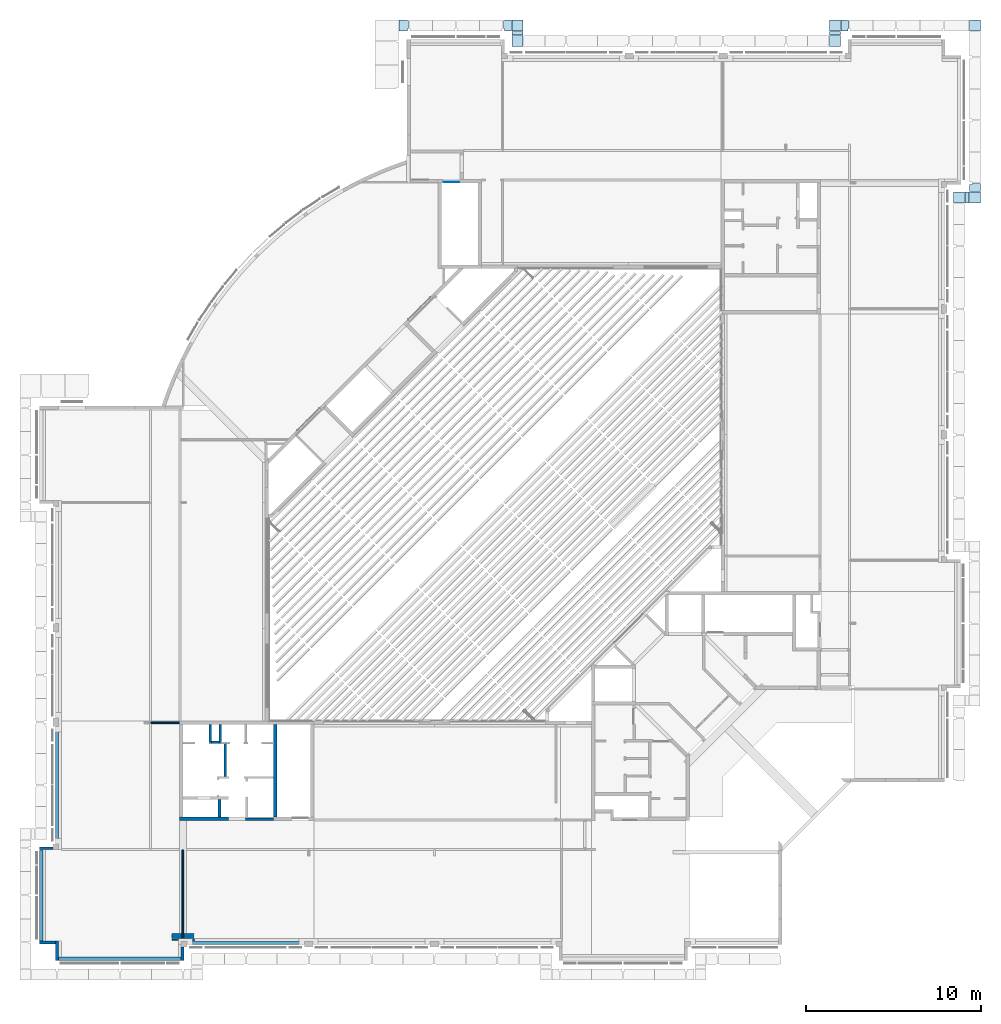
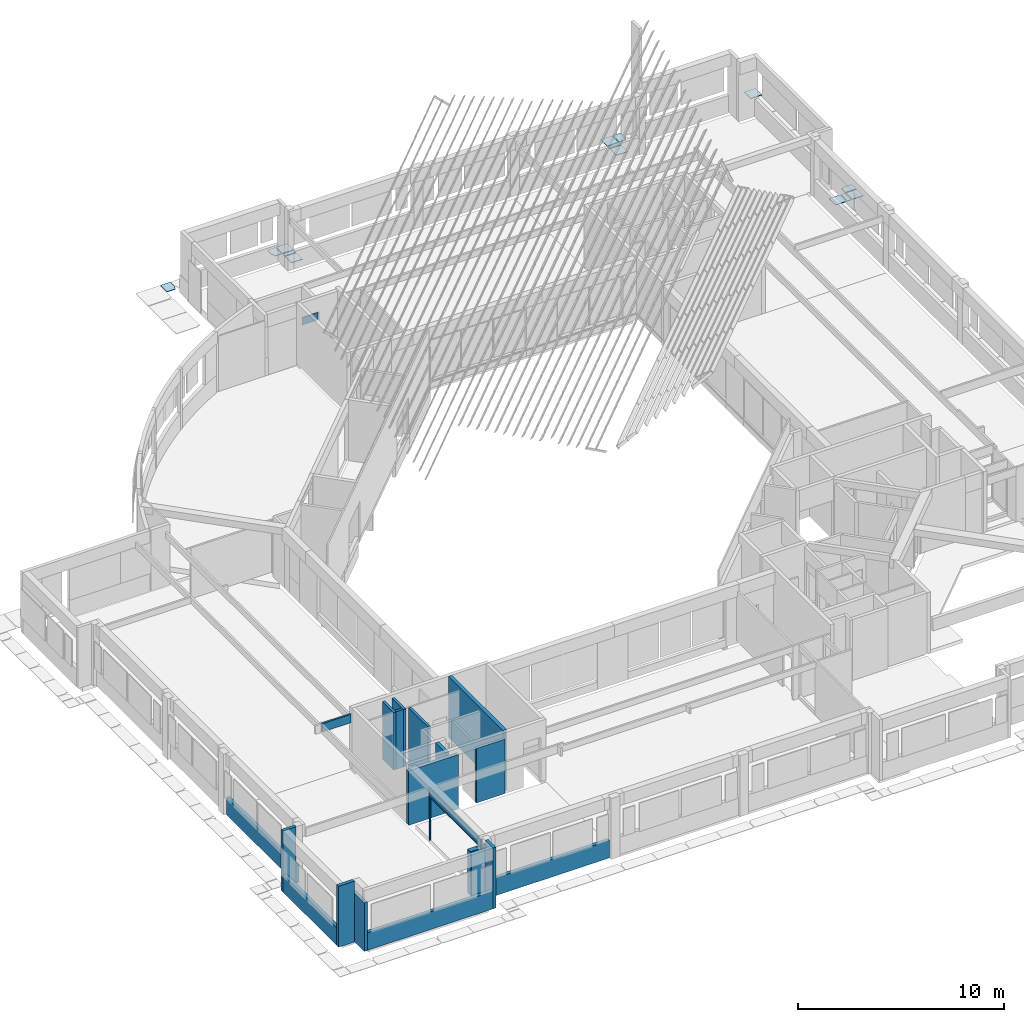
# One storey, part 24 of 37: 19 walls, 14 slabs, 1 plate.
"""IFC4X3_ADD2 building model written with IfcOpenShell, lengths in millimetres."""

from ifc_helpers import new_model, si_unit, point, direction, frame, frame_2d, origin_with_axes, origin_2d_with_axis, place, context, subcontext, project, spatial, polyline, circle_curve, trimmed, segment, composite_curve, rectangle, outline, extrude, source, transform, mapped, material, type_object, type_shapes, element, save


model = new_model("IFC4X3_ADD2")

# Units and contexts
model_context = context("Model", 3, precision=1e-05, world=origin_with_axes(), true_north=direction((0.0, 1.0)))
body_context = subcontext(model_context, "Body", "Model", "MODEL_VIEW")
ifc_project = project(units=[si_unit("LENGTHUNIT", "METRE", prefix="MILLI"), si_unit("AREAUNIT", "SQUARE_METRE"), si_unit("VOLUMEUNIT", "CUBIC_METRE"), si_unit("PLANEANGLEUNIT", "RADIAN"), si_unit("TIMEUNIT", "SECOND"), si_unit("MASSUNIT", "GRAM")], contexts=[model_context])

# Site, building, storey
site_placement = place(None, origin_with_axes())
site = spatial("IfcSite", under=ifc_project, at=site_placement, Name="Site", CompositionType="ELEMENT")
building_placement = place(site_placement, origin_with_axes())
building = spatial("IfcBuilding", under=site, at=building_placement, Name="IFC Building Story")
storey_placement = place(building_placement, frame((0.0, 0.0, 3600.0), z_axis=(0.0, 0.0, 1.0), x_axis=(1.0, 0.0, 0.0)))
storey = spatial("IfcBuildingStorey", under=building, at=storey_placement, Name="010", Elevation=3600.0)

# Plate
ifc_material_1 = material(Name="BB_Glas")
shared_shape_1 = source(origin_with_axes(), body_context, "Body", "SweptSolid", [
    extrude(rectangle(XDim=878.000000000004, YDim=454.000000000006, at=origin_2d_with_axis()), frame((0.0, 0.0, -17.0), z_axis=(0.0, 0.0, 1.0), x_axis=(1.0, 0.0, 0.0)), (0.0, 0.0, 1.0), 17.0),
])
plate_placement = place(storey_placement, frame((-28120.0, 43532.0, 2284.0), z_axis=(0.0, -1.0, 0.0), x_axis=(1.0, 0.0, 0.0)))
element("IfcPlate", 1, at=plate_placement, inside=storey, material=ifc_material_1, Name="BB_10.10_Binnenbeglazing, rechthoekig_GMO:XX_Geen", ObjectType="BB_10.10_Binnenbeglazing, rechthoekig_GMO:XX_Geen", PredefinedType="USERDEFINED", context=body_context, shape_type="MappedRepresentation", body=[
    mapped(shared_shape_1, transform((0.0, 0.0, 0.0))),
])

# Slabs
ifc_material_2 = material(Name="Steel, Galvanized - looprooster")
slab_type = type_object("IfcSlabType", Name="Steel, Galvanized - looprooster 30", PredefinedType="FLOOR", material=ifc_material_2)
slab_1_placement = place(storey_placement, frame((-31116.50125884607, 52819.99839785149, -350.0), z_axis=(0.0, 0.0, 1.0), x_axis=(0.0, -1.0, 0.0)))
element("IfcSlab", 2, at=slab_1_placement, inside=storey, type_object=slab_type, Name="Floor:GVH - Looprooster 30 mm", ObjectType="Floor:GVH - Looprooster 30 mm", PredefinedType="FLOOR", context=body_context, shape_type="SweptSolid", body=[
    extrude(outline(polyline([(202.5005722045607, 116.8752737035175), (347.5005722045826, 116.8752737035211), (347.5005722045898, -367.6260213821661), (-282.4994277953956, -367.6260213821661), (-282.4994277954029, 81.87547397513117), (-267.5017166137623, 81.87547397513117), (-267.5017166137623, 168.8752737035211), (202.5005722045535, 168.8752737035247), (202.5005722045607, 116.8752737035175)])), frame((282.4994277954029, 367.6260213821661, 0.0), z_axis=(0.0, 0.0, 1.0), x_axis=(1.0, 0.0, 0.0)), (0.0, 0.0, 1.0), 30.0),
])
for number, where, z_axis, x_axis, name in (
    (3, (-24665.00125884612, 52819.9983978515, -350.0), (0.0, 0.0, 1.0), (0.0, -1.0, 0.0), "Floor:GVH - Looprooster 30 mm"),
    (4, (-24665.00125884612, 51919.99839785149, -350.0), (0.0, 0.0, 1.0), (0.0, -1.0, 0.0), "Floor:GVH - Looprooster 30 mm"),
):
    element("IfcSlab", number, at=place(storey_placement, frame(where, z_axis=z_axis, x_axis=x_axis)), inside=storey, type_object=slab_type, Name=name, ObjectType="Floor:GVH - Looprooster 30 mm", PredefinedType="FLOOR", context=body_context, shape_type="SweptSolid", body=[
        extrude(rectangle(XDim=629.9999999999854, YDim=629.9996566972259, at=frame_2d((0.0, 0.0), x_axis=(-1.0, 0.0))), frame((314.9999999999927, 314.9998283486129, 0.0), z_axis=(0.0, 0.0, 1.0), x_axis=(1.0, 0.0, 0.0)), (0.0, 0.0, 1.0), 30.0),
    ])
slab_2_placement = place(storey_placement, frame((-6495.001258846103, 52819.99839785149, -350.0), z_axis=(0.0, 0.0, 1.0), x_axis=(0.0, -1.0, 0.0)))
element("IfcSlab", 5, at=slab_2_placement, inside=storey, type_object=slab_type, Name="Floor:GVH - Looprooster 30 mm", ObjectType="Floor:GVH - Looprooster 30 mm", PredefinedType="FLOOR", context=body_context, shape_type="SweptSolid", body=[
    extrude(rectangle(XDim=629.9999999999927, YDim=629.9996566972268, at=frame_2d((0.0, 0.0), x_axis=(-1.0, 0.0))), frame((314.9999999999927, 314.9998283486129, 0.0), z_axis=(0.0, 0.0, 1.0), x_axis=(1.0, 0.0, 0.0)), (0.0, 0.0, 1.0), 30.0),
])
slab_3_placement = place(storey_placement, frame((-6495.000106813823, 51919.9983978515, -350.0), z_axis=(0.0, 0.0, 1.0), x_axis=(0.0, -1.0, 0.0)))
element("IfcSlab", 6, at=slab_3_placement, inside=storey, type_object=slab_type, Name="Floor:GVH - Looprooster 30 mm", ObjectType="Floor:GVH - Looprooster 30 mm", PredefinedType="FLOOR", context=body_context, shape_type="SweptSolid", body=[
    extrude(rectangle(XDim=629.9999999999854, YDim=629.9996566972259, at=frame_2d((0.0, 0.0), x_axis=(-1.0, 0.0))), frame((314.9999999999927, 314.9998283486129, 0.0), z_axis=(0.0, 0.0, 1.0), x_axis=(1.0, 0.0, 0.0)), (0.0, 0.0, 1.0), 30.0),
])
slab_4_placement = place(storey_placement, frame((589.9987411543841, 42980.0001068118, -350.0), z_axis=(0.0, 0.0, 1.0), x_axis=(0.0, -1.0, 0.0)))
element("IfcSlab", 7, at=slab_4_placement, inside=storey, type_object=slab_type, Name="Floor:GVH - Looprooster 30 mm", ObjectType="Floor:GVH - Looprooster 30 mm", PredefinedType="FLOOR", context=body_context, shape_type="SweptSolid", body=[
    extrude(rectangle(XDim=629.9999999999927, YDim=629.9996566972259, at=frame_2d((0.0, 0.0), x_axis=(-1.0, 0.0))), frame((314.9999999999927, 314.9998283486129, 0.0), z_axis=(0.0, 0.0, 1.0), x_axis=(1.0, 0.0, 0.0)), (0.0, 0.0, 1.0), 30.0),
])
slab_5_placement = place(storey_placement, frame((1524.998741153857, 42979.4049242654, -350.0), z_axis=(0.0, 0.0, 1.0), x_axis=(0.0, -1.0, 0.0)))
element("IfcSlab", 8, at=slab_5_placement, inside=storey, type_object=slab_type, Name="Floor:GVH - Looprooster 30 mm", ObjectType="Floor:GVH - Looprooster 30 mm", PredefinedType="FLOOR", context=body_context, shape_type="SweptSolid", body=[
    extrude(rectangle(XDim=629.9999999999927, YDim=629.9996566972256, at=frame_2d((0.0, 0.0), x_axis=(-1.0, 0.0))), frame((314.9999999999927, 314.9998283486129, 0.0), z_axis=(0.0, 0.0, 1.0), x_axis=(1.0, 0.0, 0.0)), (0.0, 0.0, 1.0), 30.0),
])
slab_6_placement = place(storey_placement, frame((-24665.00125884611, 51954.9983978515, -350.0), z_axis=(0.0, 0.0, 1.0), x_axis=(1.0, 0.0, 0.0)))
element("IfcSlab", 9, at=slab_6_placement, inside=storey, type_object=slab_type, Name="Floor:GVH - Looprooster 30 mm", ObjectType="Floor:GVH - Looprooster 30 mm", PredefinedType="FLOOR", context=body_context, shape_type="SweptSolid", body=[
    extrude(rectangle(XDim=629.9996566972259, YDim=199.9999999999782, at=origin_2d_with_axis()), frame((314.9998283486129, 99.99999999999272, 0.0), z_axis=(0.0, 0.0, 1.0), x_axis=(1.0, 0.0, 0.0)), (0.0, 0.0, 1.0), 30.0),
])
slab_7_placement = place(storey_placement, frame((-25149.99996376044, 52819.99950666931, -350.0), z_axis=(0.0, 0.0, 1.0), x_axis=(0.0, -1.0, 0.0)))
element("IfcSlab", 10, at=slab_7_placement, inside=storey, type_object=slab_type, Name="Floor:GVH - Looprooster 30 mm", ObjectType="Floor:GVH - Looprooster 30 mm", PredefinedType="FLOOR", context=body_context, shape_type="SweptSolid", body=[
    extrude(outline(polyline([(347.500575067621, -94.37462711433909), (202.500575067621, -94.37462711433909), (202.500575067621, -146.3746271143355), (-267.5011650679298, -146.3746271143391), (-267.5011650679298, -59.37482357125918), (-282.4999850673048, -59.37482357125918), (-282.4999850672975, 300.124077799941), (347.500575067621, 300.124077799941), (347.500575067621, -94.37462711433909)])), frame((282.4999850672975, 146.3746271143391, 0.0), z_axis=(0.0, 0.0, 1.0), x_axis=(1.0, 0.0, 0.0)), (0.0, 0.0, 1.0), 30.0),
])
slab_8_placement = place(storey_placement, frame((-6495.001258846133, 51954.99839785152, -350.0), z_axis=(0.0, 0.0, 1.0), x_axis=(1.0, 0.0, 0.0)))
element("IfcSlab", 11, at=slab_8_placement, inside=storey, type_object=slab_type, Name="Floor:GVH - Looprooster 30 mm", ObjectType="Floor:GVH - Looprooster 30 mm", PredefinedType="FLOOR", context=body_context, shape_type="SweptSolid", body=[
    extrude(rectangle(XDim=629.999656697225, YDim=199.9999999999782, at=origin_2d_with_axis()), frame((314.9998283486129, 99.99999999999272, 0.0), z_axis=(0.0, 0.0, 1.0), x_axis=(1.0, 0.0, 0.0)), (0.0, 0.0, 1.0), 30.0),
])
slab_9_placement = place(storey_placement, frame((1254.998397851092, 42980.00010681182, -350.0), z_axis=(0.0, 0.0, 1.0), x_axis=(0.0, -1.0, 0.0)))
element("IfcSlab", 12, at=slab_9_placement, inside=storey, type_object=slab_type, Name="Floor:GVH - Looprooster 30 mm", ObjectType="Floor:GVH - Looprooster 30 mm", PredefinedType="FLOOR", context=body_context, shape_type="SweptSolid", body=[
    extrude(rectangle(XDim=629.9996566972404, YDim=235.0003433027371, at=frame_2d((0.0, 0.0), x_axis=(-1.0, 0.0))), frame((314.9998283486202, 117.5001716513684, 0.0), z_axis=(0.0, 0.0, 1.0), x_axis=(1.0, 0.0, 0.0)), (0.0, 0.0, 1.0), 30.0),
])
slab_10_placement = place(storey_placement, frame((1524.998741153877, 52819.9983978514, -350.0), z_axis=(0.0, 0.0, 1.0), x_axis=(0.0, -1.0, 0.0)))
element("IfcSlab", 13, at=slab_10_placement, inside=storey, type_object=slab_type, Name="Floor:GVH - Looprooster 30 mm", ObjectType="Floor:GVH - Looprooster 30 mm", PredefinedType="FLOOR", context=body_context, shape_type="SweptSolid", body=[
    extrude(rectangle(XDim=629.9999999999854, YDim=629.9996566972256, at=frame_2d((0.0, 0.0), x_axis=(-1.0, 0.0))), frame((314.9999999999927, 314.9998283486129, 0.0), z_axis=(0.0, 0.0, 1.0), x_axis=(1.0, 0.0, 0.0)), (0.0, 0.0, 1.0), 30.0),
])
slab_11_placement = place(storey_placement, frame((-5826.504006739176, 52819.99839785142, -350.0), z_axis=(0.0, 0.0, 1.0), x_axis=(0.0, -1.0, 0.0)))
element("IfcSlab", 14, at=slab_11_placement, inside=storey, type_object=slab_type, Name="Floor:GVH - Looprooster 30 mm", ObjectType="Floor:GVH - Looprooster 30 mm", PredefinedType="FLOOR", context=body_context, shape_type="SweptSolid", body=[
    extrude(outline(polyline([(202.4987412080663, 94.37596067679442), (347.5011825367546, 94.37596067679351), (347.5011825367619, -300.1280823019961), (-282.4988174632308, -300.1280823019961), (-282.4988174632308, 59.37616094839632), (-267.5011062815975, 59.37616094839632), (-267.5011062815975, 146.3759606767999), (202.4987412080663, 146.3759606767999), (202.4987412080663, 94.37596067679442)])), frame((282.4988174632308, 300.1280823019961, 0.0), z_axis=(0.0, 0.0, 1.0), x_axis=(1.0, 0.0, 0.0)), (0.0, 0.0, 1.0), 30.0),
])
slab_12_placement = place(storey_placement, frame((1524.998741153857, 43018.49954988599, -350.0), z_axis=(0.0, 0.0, 1.0), x_axis=(1.0, 0.0, 0.0)))
element("IfcSlab", 15, at=slab_12_placement, inside=storey, type_object=slab_type, Name="Floor:GVH - Looprooster 30 mm", ObjectType="Floor:GVH - Looprooster 30 mm", PredefinedType="FLOOR", context=body_context, shape_type="SweptSolid", body=[
    extrude(outline(polyline([(282.499218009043, 59.3742398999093), (282.499218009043, -300.1244649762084), (-347.5004386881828, -300.1244649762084), (-347.5004386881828, 94.37423993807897), (-202.4983406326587, 94.37423993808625), (-202.4983406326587, 146.3759851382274), (267.4995613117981, 146.3759851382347), (267.4995613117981, 59.3742398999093), (282.499218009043, 59.3742398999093)])), frame((347.5004386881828, 300.1244649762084, 0.0), z_axis=(0.0, 0.0, 1.0), x_axis=(1.0, 0.0, 0.0)), (0.0, 0.0, 1.0), 30.0),
])

# Walls
ifc_material_3 = material(Name="BB_Beton_Bestaand")
wall_type_1 = type_object("IfcWallType", Name="BB_Beton_Bestaand 200", PredefinedType="NOTDEFINED", material=ifc_material_3)
wall_1_placement = place(storey_placement, origin_with_axes())
element("IfcWall", 16, at=wall_1_placement, inside=storey, type_object=wall_type_1, Name="Basic Wall:BB_XX_Wand uit beton, 200 mm", ObjectType="Basic Wall:BB_XX_Wand uit beton, 200 mm", PredefinedType="SOLIDWALL", context=body_context, shape_type="SweptSolid", body=[
    extrude(rectangle(XDim=2800.000000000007, YDim=200.0, at=origin_2d_with_axis()), frame((-42300.0, 7100.0, -80.0), z_axis=(0.0, 0.0, 1.0), x_axis=(1.0, 0.0, 0.0)), (0.0, 0.0, 1.0), 3220.0),
])
wall_2_placement = place(storey_placement, origin_with_axes())
element("IfcWall", 17, at=wall_2_placement, inside=storey, type_object=wall_type_1, Name="Basic Wall:BB_XX_Wand uit beton, 200 mm", ObjectType="Basic Wall:BB_XX_Wand uit beton, 200 mm", PredefinedType="SOLIDWALL", context=body_context, shape_type="SweptSolid", body=[
    extrude(rectangle(XDim=5300.004065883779, YDim=200.0, at=frame_2d((0.0, 0.0), x_axis=(0.0, 1.0))), frame((-38200.0, 9850.00203294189, -80.0), z_axis=(0.0, 0.0, 1.0), x_axis=(1.0, 0.0, 0.0)), (0.0, 0.0, 1.0), 3600.0),
])
wall_type_2 = type_object("IfcWallType", Name="BB_Beton_Bestaand 190", PredefinedType="NOTDEFINED", material=ifc_material_3)
wall_3_placement = place(storey_placement, origin_with_axes())
element("IfcWall", 18, at=wall_3_placement, inside=storey, type_object=wall_type_2, Name="Basic Wall:BB_XX_Wand uit beton, 190 mm", ObjectType="Basic Wall:BB_XX_Wand uit beton, 190 mm", PredefinedType="SOLIDWALL", context=body_context, shape_type="SweptSolid", body=[
    extrude(rectangle(XDim=7010.000000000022, YDim=190.0, at=origin_2d_with_axis()), frame((-47100.0, -900.0, -200.0), z_axis=(0.0, 0.0, 1.0), x_axis=(1.0, 0.0, 0.0)), (0.0, 0.0, 1.0), 1040.0),
])
wall_4_placement = place(storey_placement, origin_with_axes())
element("IfcWall", 19, at=wall_4_placement, inside=storey, type_object=wall_type_2, Name="Basic Wall:BB_XX_Wand uit beton, 190 mm", ObjectType="Basic Wall:BB_XX_Wand uit beton, 190 mm", PredefinedType="SOLIDWALL", context=body_context, shape_type="SweptSolid", body=[
    extrude(rectangle(XDim=1124.99999999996, YDim=189.9999999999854, at=frame_2d((0.0, 0.0), x_axis=(0.0, 1.0))), frame((-50700.0, -437.50000000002, -200.0), z_axis=(0.0, 0.0, 1.0), x_axis=(1.0, 0.0, 0.0)), (0.0, 0.0, 1.0), 2880.0),
])
wall_5_placement = place(storey_placement, origin_with_axes())
element("IfcWall", 20, at=wall_5_placement, inside=storey, type_object=wall_type_2, Name="Basic Wall:BB_XX_Wand uit beton, 190 mm", ObjectType="Basic Wall:BB_XX_Wand uit beton, 190 mm", PredefinedType="SOLIDWALL", context=body_context, shape_type="SweptSolid", body=[
    extrude(rectangle(XDim=900.0000000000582, YDim=190.0, at=origin_2d_with_axis()), frame((-51245.0, 30.0, -200.0), z_axis=(0.0, 0.0, 1.0), x_axis=(1.0, 0.0, 0.0)), (0.0, 0.0, 1.0), 3600.0),
])
wall_6_placement = place(storey_placement, origin_with_axes())
element("IfcWall", 21, at=wall_6_placement, inside=storey, type_object=wall_type_2, Name="Basic Wall:BB_XX_Wand uit beton, 190 mm", ObjectType="Basic Wall:BB_XX_Wand uit beton, 190 mm", PredefinedType="SOLIDWALL", context=body_context, shape_type="SweptSolid", body=[
    extrude(rectangle(XDim=5210.00000000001, YDim=189.9999999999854, at=frame_2d((0.0, 0.0), x_axis=(0.0, 1.0))), frame((-51600.0, 2700.0, -200.0), z_axis=(0.0, 0.0, 1.0), x_axis=(1.0, 0.0, 0.0)), (0.0, 0.0, 1.0), 1040.0),
])
wall_7_placement = place(storey_placement, origin_with_axes())
element("IfcWall", 22, at=wall_7_placement, inside=storey, type_object=wall_type_2, Name="Basic Wall:BB_XX_Wand uit beton, 190 mm", ObjectType="Basic Wall:BB_XX_Wand uit beton, 190 mm", PredefinedType="SOLIDWALL", context=body_context, shape_type="SweptSolid", body=[
    extrude(rectangle(XDim=6709.999999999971, YDim=189.9999999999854, at=frame_2d((0.0, 0.0), x_axis=(0.0, 1.0))), frame((-50700.0, 9000.000000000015, -200.0), z_axis=(0.0, 0.0, 1.0), x_axis=(1.0, 0.0, 0.0)), (0.0, 0.0, 1.0), 1040.0),
])
wall_8_placement = place(storey_placement, origin_with_axes())
element("IfcWall", 23, at=wall_8_placement, inside=storey, type_object=wall_type_2, Name="Basic Wall:BB_XX_Wand uit beton, 190 mm", ObjectType="Basic Wall:BB_XX_Wand uit beton, 190 mm", PredefinedType="SOLIDWALL", context=body_context, shape_type="SweptSolid", body=[
    extrude(rectangle(XDim=6710.0, YDim=190.0, at=origin_2d_with_axis()), frame((-39900.0, 0.0, -200.0), z_axis=(0.0, 0.0, 1.0), x_axis=(1.0, 0.0, 0.0)), (0.0, 0.0, 1.0), 1040.0),
])
wall_type_3 = type_object("IfcWallType", Name="BB_Beton_Bestaand 170", PredefinedType="NOTDEFINED", material=ifc_material_3)
wall_9_placement = place(storey_placement, origin_with_axes())
element("IfcWall", 24, at=wall_9_placement, inside=storey, type_object=wall_type_3, Name="Basic Wall:BB_XX_Wand uit beton, 170 mm", ObjectType="Basic Wall:BB_XX_Wand uit beton, 170 mm", PredefinedType="SOLIDWALL", context=body_context, shape_type="SweptSolid", body=[
    extrude(rectangle(XDim=749.9999999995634, YDim=170.0, at=origin_2d_with_axis()), frame((-51320.00000000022, 5420.0, -200.0), z_axis=(0.0, 0.0, 1.0), x_axis=(1.0, 0.0, 0.0)), (0.0, 0.0, 1.0), 3600.0),
])
wall_10_placement = place(storey_placement, origin_with_axes())
element("IfcWall", 25, at=wall_10_placement, inside=storey, type_object=wall_type_3, Name="Basic Wall:BB_XX_Wand uit beton, 170 mm", ObjectType="Basic Wall:BB_XX_Wand uit beton, 170 mm", PredefinedType="SOLIDWALL", context=body_context, shape_type="SweptSolid", body=[
    extrude(rectangle(XDim=750.000000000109, YDim=170.0, at=frame_2d((0.0, 0.0), x_axis=(0.0, 1.0))), frame((-43510.0, -620.0000000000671, -200.0), z_axis=(0.0, 0.0, 1.0), x_axis=(1.0, 0.0, 0.0)), (0.0, 0.0, 1.0), 3600.0),
])
ifc_material_4 = material(Name="BB_Metselwerk_Bestaand")
wall_type_4 = type_object("IfcWallType", Name="BB_Metselwerk_Bestaand 140", PredefinedType="NOTDEFINED", material=ifc_material_4)
wall_11_placement = place(storey_placement, origin_with_axes())
element("IfcWall", 26, at=wall_11_placement, inside=storey, type_object=wall_type_4, Name="Basic Wall:BB_XX_Wand uit metselwerk, 140 mm", ObjectType="Basic Wall:BB_XX_Wand uit metselwerk, 140 mm", PredefinedType="SOLIDWALL", context=body_context, shape_type="SweptSolid", body=[
    extrude(rectangle(XDim=1609.999999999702, YDim=140.0, at=origin_2d_with_axis()), frame((-39104.99999999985, 7070.0, -80.0), z_axis=(0.0, 0.0, 1.0), x_axis=(1.0, 0.0, 0.0)), (0.0, 0.0, 1.0), 3220.0),
])
wall_12_placement = place(storey_placement, origin_with_axes())
element("IfcWall", 27, at=wall_12_placement, inside=storey, type_object=wall_type_4, Name="Basic Wall:BB_XX_Wand uit metselwerk, 140 mm", ObjectType="Basic Wall:BB_XX_Wand uit metselwerk, 140 mm", PredefinedType="SOLIDWALL", context=body_context, shape_type="SweptSolid", body=[
    extrude(rectangle(XDim=1870.00406588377, YDim=140.0, at=frame_2d((0.0, 0.0), x_axis=(0.0, 1.0))), frame((-41080.0, 10475.00203294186, -80.0), z_axis=(0.0, 0.0, 1.0), x_axis=(1.0, 0.0, 0.0)), (0.0, 0.0, 1.0), 3400.0),
])
wall_13_placement = place(storey_placement, origin_with_axes())
element("IfcWall", 28, at=wall_13_placement, inside=storey, type_object=wall_type_4, Name="Basic Wall:BB_XX_Wand uit metselwerk, 140 mm", ObjectType="Basic Wall:BB_XX_Wand uit metselwerk, 140 mm", PredefinedType="SOLIDWALL", context=body_context, shape_type="SweptSolid", body=[
    extrude(rectangle(XDim=1090.00000000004, YDim=140.0, at=frame_2d((0.0, 0.0), x_axis=(0.0, 1.0))), frame((-41920.0, 11955.00406588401, -80.0), z_axis=(0.0, 0.0, 1.0), x_axis=(1.0, 0.0, 0.0)), (0.0, 0.0, 1.0), 3400.0),
])
wall_14_placement = place(storey_placement, origin_with_axes())
element("IfcWall", 29, at=wall_14_placement, inside=storey, type_object=wall_type_4, Name="Basic Wall:BB_XX_Wand uit metselwerk, 140 mm", ObjectType="Basic Wall:BB_XX_Wand uit metselwerk, 140 mm", PredefinedType="SOLIDWALL", context=body_context, shape_type="SweptSolid", body=[
    extrude(rectangle(XDim=409.9999999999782, YDim=140.0, at=origin_2d_with_axis()), frame((-41645.0, 11480.004065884, -80.0), z_axis=(0.0, 0.0, 1.0), x_axis=(1.0, 0.0, 0.0)), (0.0, 0.0, 1.0), 3400.0),
])
wall_15_placement = place(storey_placement, origin_with_axes())
element("IfcWall", 30, at=wall_15_placement, inside=storey, type_object=wall_type_4, Name="Basic Wall:BB_XX_Wand uit metselwerk, 140 mm", ObjectType="Basic Wall:BB_XX_Wand uit metselwerk, 140 mm", PredefinedType="SOLIDWALL", context=body_context, shape_type="SweptSolid", body=[
    extrude(rectangle(XDim=1090.00000000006, YDim=140.0, at=frame_2d((0.0, 0.0), x_axis=(0.0, 1.0))), frame((-41370.0, 11955.004065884, -80.0), z_axis=(0.0, 0.0, 1.0), x_axis=(1.0, 0.0, 0.0)), (0.0, 0.0, 1.0), 3400.0),
])
wall_type_5 = type_object("IfcWallType", Name="BB_Metselwerk_Bestaand 190", PredefinedType="NOTDEFINED", material=ifc_material_4)
wall_16_placement = place(storey_placement, origin_with_axes())
element("IfcWall", 31, at=wall_16_placement, inside=storey, type_object=wall_type_5, Name="Basic Wall:BB_XX_Wand uit metselwerk, 190 mm", ObjectType="Basic Wall:BB_XX_Wand uit metselwerk, 190 mm", PredefinedType="SOLIDWALL", context=body_context, shape_type="SweptSolid", body=[
    extrude(rectangle(XDim=999.9999999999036, YDim=189.9999999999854, at=frame_2d((0.0, 0.0), x_axis=(0.0, 1.0))), frame((-41405.0, 7700.00000000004, -80.0), z_axis=(0.0, 0.0, 1.0), x_axis=(1.0, 0.0, 0.0)), (0.0, 0.0, 1.0), 3400.0),
])
wall_type_6 = type_object("IfcWallType", Name="Basic Wall_BB_10.01.41#01_Gipskartonwand_MS100 _ 25.50.25_ 100 mm55", PredefinedType="NOTDEFINED")
shared_shape_2 = source(origin_with_axes(), body_context, "Body", "SweptSolid", [
    extrude(rectangle(XDim=5045.00000000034, YDim=12.49999999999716, at=origin_2d_with_axis()), frame((2507.50000000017, 43.74999999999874, 0.0), z_axis=(0.0, 0.0, 1.0), x_axis=(1.0, 0.0, 0.0)), (0.0, 0.0, 1.0), 400.0),
    extrude(rectangle(XDim=5057.50000000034, YDim=12.49999999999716, at=origin_2d_with_axis()), frame((2513.75000000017, 31.25000000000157, 0.0), z_axis=(0.0, 0.0, 1.0), x_axis=(1.0, 0.0, 0.0)), (0.0, 0.0, 1.0), 400.0),
    extrude(rectangle(XDim=5080.00000000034, YDim=50.000000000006, at=origin_2d_with_axis()), frame((2515.0, 0.0, 0.0), z_axis=(0.0, 0.0, 1.0), x_axis=(1.0, 0.0, 0.0)), (0.0, 0.0, 1.0), 400.0),
    extrude(rectangle(XDim=5045.00000000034, YDim=12.49999999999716, at=origin_2d_with_axis()), frame((2507.50000000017, -31.25000000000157, 0.0), z_axis=(0.0, 0.0, 1.0), x_axis=(1.0, 0.0, 0.0)), (0.0, 0.0, 1.0), 400.0),
    extrude(rectangle(XDim=5045.00000000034, YDim=12.50000000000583, at=origin_2d_with_axis()), frame((2507.50000000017, -43.750000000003, 0.0), z_axis=(0.0, 0.0, 1.0), x_axis=(1.0, 0.0, 0.0)), (0.0, 0.0, 1.0), 400.0),
])
type_shapes(wall_type_6, [shared_shape_2])
wall_17_placement = place(storey_placement, frame((-43500.0, 270.0, 2700.0), z_axis=(0.0, 0.0, 1.0), x_axis=(0.0, 1.0, 0.0)))
element("IfcWall", 32, at=wall_17_placement, inside=storey, type_object=wall_type_6, Name="Basic Wall:BB_10.01.41#01_Gipskartonwand_MS100 / 25.50.25, 100 mm", ObjectType="Basic Wall:BB_10.01.41#01_Gipskartonwand_MS100 / 25.50.25, 100 mm", PredefinedType="PARTITIONING", context=body_context, shape_type="MappedRepresentation", body=[
    mapped(shared_shape_2, transform((0.0, 0.0, 0.0))),
])
wall_type_7 = type_object("IfcWallType", Name="Basic Wall_BB_10.01.41#01_Gipskartonwand_MS100 _ 25.50.25_ 100 mm65", PredefinedType="NOTDEFINED")
shared_shape_3 = source(origin_with_axes(), body_context, "Body", "SweptSolid", [
    extrude(rectangle(XDim=1585.000000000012, YDim=12.50000000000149, at=origin_2d_with_axis()), frame((792.500000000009, 43.75000000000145, 0.0), z_axis=(0.0, 0.0, 1.0), x_axis=(1.0, 0.0, 0.0)), (0.0, 0.0, 1.0), 500.0),
    extrude(rectangle(XDim=1585.000000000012, YDim=12.49999999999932, at=origin_2d_with_axis()), frame((792.500000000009, 31.2500000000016, 0.0), z_axis=(0.0, 0.0, 1.0), x_axis=(1.0, 0.0, 0.0)), (0.0, 0.0, 1.0), 500.0),
    extrude(rectangle(XDim=1625.000000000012, YDim=50.0000000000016, at=origin_2d_with_axis()), frame((797.500000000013, 1.049826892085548e-12, 0.0), z_axis=(0.0, 0.0, 1.0), x_axis=(1.0, 0.0, 0.0)), (0.0, 0.0, 1.0), 500.0),
    extrude(rectangle(XDim=1597.50000000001, YDim=12.49999999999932, at=origin_2d_with_axis()), frame((798.750000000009, -31.2499999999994, 0.0), z_axis=(0.0, 0.0, 1.0), x_axis=(1.0, 0.0, 0.0)), (0.0, 0.0, 1.0), 500.0),
    extrude(rectangle(XDim=1585.000000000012, YDim=12.49999999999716, at=origin_2d_with_axis()), frame((792.50000000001, -43.74999999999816, 0.0), z_axis=(0.0, 0.0, 1.0), x_axis=(1.0, 0.0, 0.0)), (0.0, 0.0, 1.0), 500.0),
])
type_shapes(wall_type_7, [shared_shape_3])
wall_18_placement = place(storey_placement, frame((-43715.0, 12600.0, 2640.0), z_axis=(0.0, 0.0, 1.0), x_axis=(-1.0, 0.0, 0.0)))
element("IfcWall", 33, at=wall_18_placement, inside=storey, type_object=wall_type_7, Name="Basic Wall:BB_10.01.41#01_Gipskartonwand_MS100 / 25.50.25, 100 mm", ObjectType="Basic Wall:BB_10.01.41#01_Gipskartonwand_MS100 / 25.50.25, 100 mm", PredefinedType="PARTITIONING", context=body_context, shape_type="MappedRepresentation", body=[
    mapped(shared_shape_3, transform((0.0, 0.0, 0.0))),
])
ifc_material_5 = material(Name="BB_MDF")
wall_type_8 = type_object("IfcWallType", Name="BB_10.02.31_Verrolbare binnenwand_ lokaal K.10.105_GMO_XX_Geen", PredefinedType="NOTDEFINED")
shared_shape_4 = source(origin_with_axes(), body_context, "Body", "SweptSolid", [
    extrude(outline(composite_curve([segment(polyline([(23.99999999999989, 629.9999999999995), (43.99999999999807, 629.9999999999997)]), True, "CONTINUOUS"), segment(polyline([(43.99999999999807, 629.9999999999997), (44.00000000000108, -629.9999999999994)]), True, "CONTINUOUS"), segment(polyline([(44.00000000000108, -629.9999999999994), (24.0, -629.9999999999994)]), True, "CONTINUOUS"), segment(trimmed(circle_curve(frame_2d((0.0, -645.6538461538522), x_axis=(1.0, 0.0)), 28.6538461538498), [point((24.0, -629.9999999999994))], [point((-23.99999999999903, -629.9999999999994))], True, "CARTESIAN"), True, "CONTINUOUS"), segment(polyline([(-23.99999999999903, -629.9999999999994), (-43.99999999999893, -629.9999999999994)]), True, "CONTINUOUS"), segment(polyline([(-43.99999999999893, -629.9999999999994), (-44.00000000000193, 629.9999999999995)]), True, "CONTINUOUS"), segment(polyline([(-44.00000000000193, 629.9999999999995), (-24.0, 629.9999999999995)]), True, "CONTINUOUS"), segment(trimmed(circle_curve(frame_2d((0.0, 614.3461538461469), x_axis=(1.0, 0.0)), 28.65384615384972), [point((-24.0, 629.9999999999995))], [point((23.99999999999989, 629.9999999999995))], False, "CARTESIAN"), True, "CONTINUOUS")], self_intersect=False)), frame((69.0, -642.9999999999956, 20.0), z_axis=(0.0, 0.0, 1.0), x_axis=(1.0, 0.0, 0.0)), (0.0, 0.0, 1.0), 2580.0),
    extrude(outline(polyline([(64.0, -83.99999999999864), (-64.0, -83.99999999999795), (-64.0, 76.0), (-48.0, 76.0), (-48.0, -68.00000000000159), (48.0, -68.00000000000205), (48.0, 75.99999999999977), (64.0, 75.99999999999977), (64.0, -83.99999999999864)])), frame((69.0, -1227.0, 20.0), z_axis=(0.0, 0.0, 1.0), x_axis=(1.0, 0.0, 0.0)), (0.0, 0.0, 1.0), 2580.0),
    extrude(outline(polyline([(34.0, 44.0), (34.0, -44.00000000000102), (-26.0, -44.00000000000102), (-26.0, -28.0), (18.0, -28.0), (18.0, 28.0), (-26.0, 28.0), (-26.0, 44.0), (34.0, 44.0)])), frame((5146.0, -643.0, 20.0), z_axis=(0.0, 0.0, 1.0), x_axis=(1.0, 0.0, 0.0)), (0.0, 0.0, 1.0), 2580.0),
    extrude(rectangle(XDim=5180.0, YDim=99.99999999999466, at=origin_2d_with_axis()), frame((2590.0, -642.9999999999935, 2620.0), z_axis=(0.0, 0.0, 1.0), x_axis=(1.0, 0.0, 0.0)), (0.0, 0.0, 1.0), 80.0),
    extrude(outline(composite_curve([segment(polyline([(23.99999999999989, 629.9999999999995), (43.99999999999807, 629.9999999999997)]), True, "CONTINUOUS"), segment(polyline([(43.99999999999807, 629.9999999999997), (44.00000000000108, -629.9999999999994)]), True, "CONTINUOUS"), segment(polyline([(44.00000000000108, -629.9999999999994), (24.0, -629.9999999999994)]), True, "CONTINUOUS"), segment(trimmed(circle_curve(frame_2d((0.0, -645.6538461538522), x_axis=(1.0, 0.0)), 28.65384615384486), [point((24.0, -629.9999999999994))], [point((-23.99999999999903, -629.9999999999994))], True, "CARTESIAN"), True, "CONTINUOUS"), segment(polyline([(-23.99999999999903, -629.9999999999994), (-43.99999999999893, -629.9999999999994)]), True, "CONTINUOUS"), segment(polyline([(-43.99999999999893, -629.9999999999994), (-44.00000000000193, 629.9999999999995)]), True, "CONTINUOUS"), segment(polyline([(-44.00000000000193, 629.9999999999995), (-24.0, 629.9999999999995)]), True, "CONTINUOUS"), segment(trimmed(circle_curve(frame_2d((0.0, 614.3461538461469), x_axis=(1.0, 0.0)), 28.65384615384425), [point((-24.0, 629.9999999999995))], [point((23.99999999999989, 629.9999999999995))], False, "CARTESIAN"), True, "CONTINUOUS")], self_intersect=False)), frame((184.0, -642.9999999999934, 20.0), z_axis=(0.0, 0.0, 1.0), x_axis=(1.0, 0.0, 0.0)), (0.0, 0.0, 1.0), 2580.0),
    extrude(outline(composite_curve([segment(polyline([(23.99999999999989, 629.9999999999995), (43.99999999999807, 629.9999999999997)]), True, "CONTINUOUS"), segment(polyline([(43.99999999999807, 629.9999999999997), (44.00000000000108, -629.9999999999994)]), True, "CONTINUOUS"), segment(polyline([(44.00000000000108, -629.9999999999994), (24.0, -629.9999999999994)]), True, "CONTINUOUS"), segment(trimmed(circle_curve(frame_2d((0.0, -645.6538461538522), x_axis=(1.0, 0.0)), 28.65384615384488), [point((24.0, -629.9999999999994))], [point((-23.99999999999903, -629.9999999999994))], True, "CARTESIAN"), True, "CONTINUOUS"), segment(polyline([(-23.99999999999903, -629.9999999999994), (-43.99999999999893, -629.9999999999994)]), True, "CONTINUOUS"), segment(polyline([(-43.99999999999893, -629.9999999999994), (-44.00000000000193, 629.9999999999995)]), True, "CONTINUOUS"), segment(polyline([(-44.00000000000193, 629.9999999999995), (-24.0, 629.9999999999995)]), True, "CONTINUOUS"), segment(trimmed(circle_curve(frame_2d((0.0, 614.3461538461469), x_axis=(1.0, 0.0)), 28.65384615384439), [point((-24.0, 629.9999999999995))], [point((23.99999999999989, 629.9999999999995))], False, "CARTESIAN"), True, "CONTINUOUS")], self_intersect=False)), frame((278.9999999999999, -642.9999999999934, 20.0), z_axis=(0.0, 0.0, 1.0), x_axis=(1.0, 0.0, 0.0)), (0.0, 0.0, 1.0), 2580.0),
    extrude(outline(composite_curve([segment(polyline([(23.99999999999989, 629.9999999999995), (43.99999999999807, 629.9999999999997)]), True, "CONTINUOUS"), segment(polyline([(43.99999999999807, 629.9999999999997), (44.00000000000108, -629.9999999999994)]), True, "CONTINUOUS"), segment(polyline([(44.00000000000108, -629.9999999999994), (24.0, -629.9999999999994)]), True, "CONTINUOUS"), segment(trimmed(circle_curve(frame_2d((0.0, -645.6538461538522), x_axis=(1.0, 0.0)), 28.65384615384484), [point((24.0, -629.9999999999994))], [point((-23.99999999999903, -629.9999999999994))], True, "CARTESIAN"), True, "CONTINUOUS"), segment(polyline([(-23.99999999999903, -629.9999999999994), (-43.99999999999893, -629.9999999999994)]), True, "CONTINUOUS"), segment(polyline([(-43.99999999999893, -629.9999999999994), (-44.00000000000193, 629.9999999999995)]), True, "CONTINUOUS"), segment(polyline([(-44.00000000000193, 629.9999999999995), (-24.0, 629.9999999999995)]), True, "CONTINUOUS"), segment(trimmed(circle_curve(frame_2d((0.0, 614.3461538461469), x_axis=(1.0, 0.0)), 28.65384615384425), [point((-24.0, 629.9999999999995))], [point((23.99999999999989, 629.9999999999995))], False, "CARTESIAN"), True, "CONTINUOUS")], self_intersect=False)), frame((374.0, -642.9999999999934, 20.0), z_axis=(0.0, 0.0, 1.0), x_axis=(1.0, 0.0, 0.0)), (0.0, 0.0, 1.0), 2580.0),
])
type_shapes(wall_type_8, [shared_shape_4])
wall_19_placement = place(storey_placement, frame((-44143.0, 120.0, 0.0), z_axis=(0.0, 0.0, 1.0), x_axis=(0.0, 1.0, 0.0)))
element("IfcWall", 34, at=wall_19_placement, inside=storey, type_object=wall_type_8, material=ifc_material_5, Name="BB_10.02.31_Verrolbare binnenwand, lokaal K.10.105_GMO:XX_Geen", ObjectType="BB_10.02.31_Verrolbare binnenwand, lokaal K.10.105_GMO:XX_Geen", PredefinedType="MOVABLE", context=body_context, shape_type="MappedRepresentation", body=[
    mapped(shared_shape_4, transform((0.0, 0.0, 0.0))),
])

save(model, "model.ifc")
